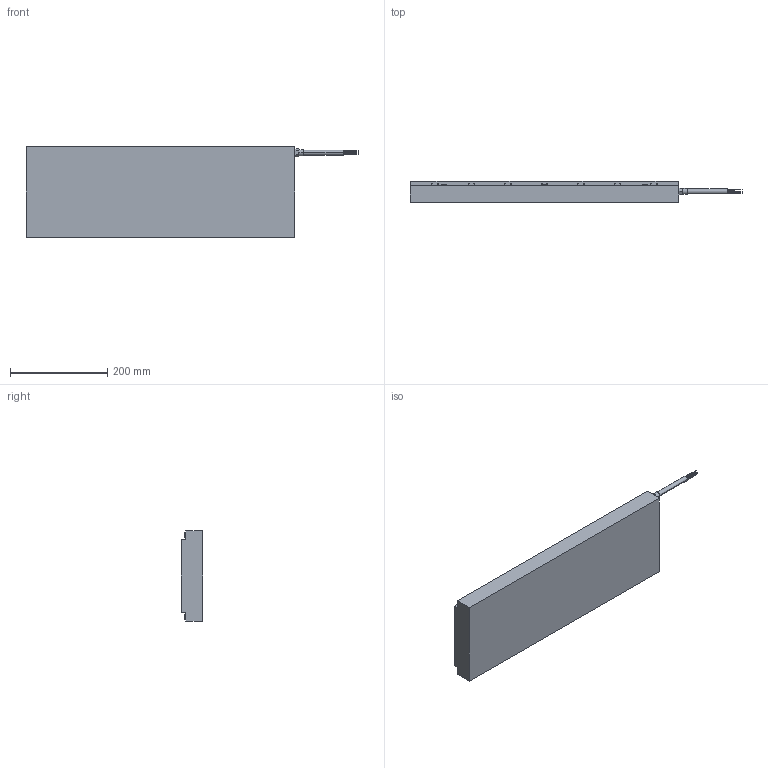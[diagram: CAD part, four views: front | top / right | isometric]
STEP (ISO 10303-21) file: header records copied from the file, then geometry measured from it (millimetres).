
FILE_DESCRIPTION((''),'2;1');
FILE_NAME('IC33_150','2010-03-09T',('brad.winesett'),('Kollmorgen'),'PRO/ENGINEER BY PARAMETRIC TECHNOLOGY CORPORATION, 2006510','PRO/ENGINEER BY PARAMETRIC TECHNOLOGY CORPORATION, 2006510','');
FILE_SCHEMA(('CONFIG_CONTROL_DESIGN'));
Length unit declared in the file: millimetre
Products named in the file (1): IC33_150
Bounding box: 682.2 x 43.3 x 185 mm (x, y, z)
Volume: 4264906 mm3; surface area: 323998.2 mm2
Topology: 1 solids, 36 shells, 459 faces, 1152 edges, 733 vertices
Faces by surface type: plane 201, cylinder 188, cone 70
Entity records: 13324 total; most frequent: DIRECTION 2448, CARTESIAN_POINT 2275, ORIENTED_EDGE 2024, EDGE_CURVE 1082, AXIS2_PLACEMENT_3D 906, VERTEX_POINT 733, VECTOR 636, LINE 636
